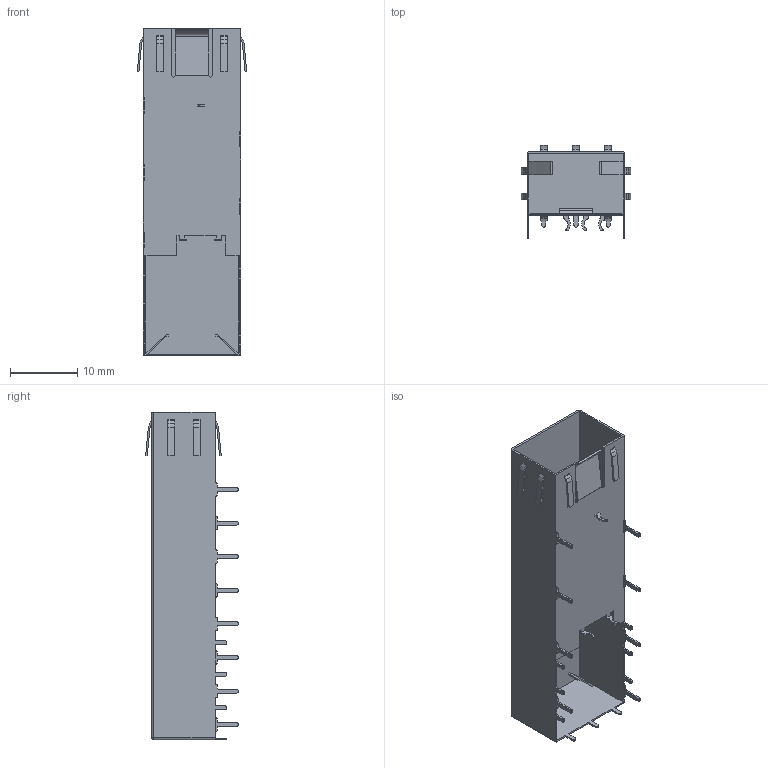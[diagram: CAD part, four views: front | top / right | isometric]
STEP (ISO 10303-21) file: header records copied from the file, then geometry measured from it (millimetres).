
FILE_DESCRIPTION (( 'STEP AP203' ), '1' );
FILE_NAME ('SFP 1X1 焊接脚 有月牙（3D-20220607）.STEP', '2022-06-07T03:08:20', ( '桑三博客' ), ( 'Www.SangSan.Cn' ), 'SwSTEP 2.0', 'SolidWorks 2018', '' );
FILE_SCHEMA (( 'CONFIG_CONTROL_DESIGN' ));
Length unit declared in the file: millimetre
Products named in the file (1): SFP 1X1 焊接脚 有月牙（3D-20220607）
Bounding box: 16.3 x 13.8 x 48.75 mm (x, y, z)
Volume: 566.3 mm3; surface area: 4615.3 mm2
Topology: 1 solids, 1 shells, 322 faces, 924 edges, 610 vertices
Faces by surface type: plane 189, cylinder 131, sphere 2
Entity records: 10617 total; most frequent: CARTESIAN_POINT 1855, ORIENTED_EDGE 1844, DIRECTION 1830, EDGE_CURVE 922, VECTOR 660, LINE 660, VERTEX_POINT 610, AXIS2_PLACEMENT_3D 585
